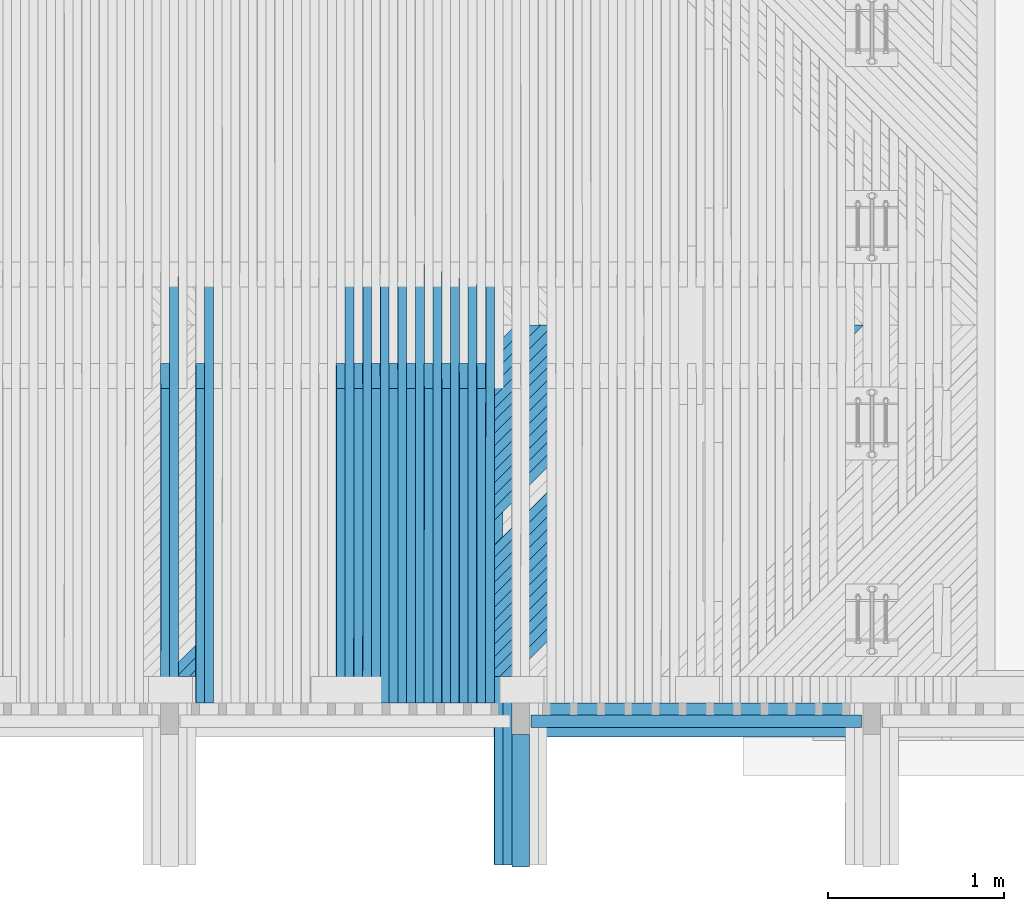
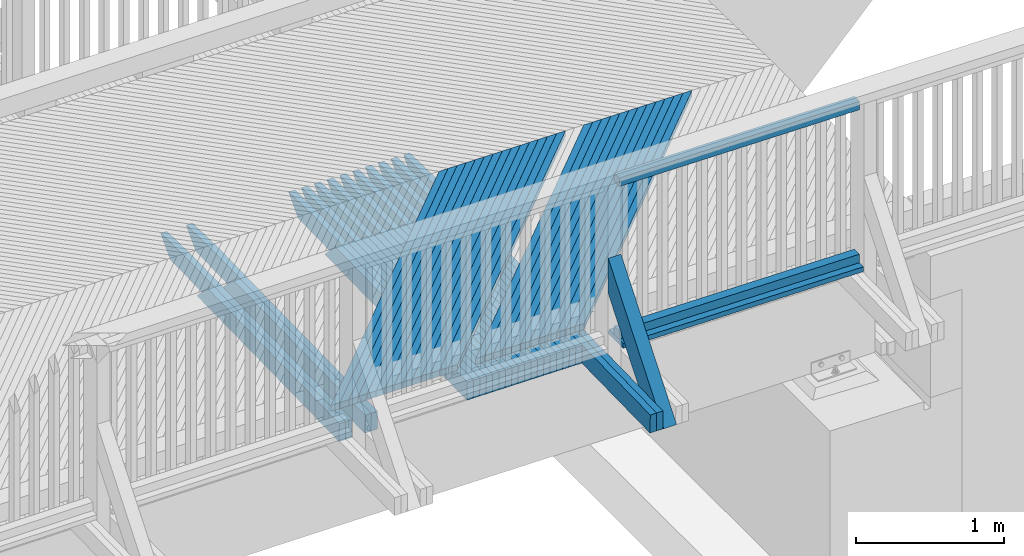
# One storey, part 40 of 53: 53 beams, 1 member.
"""IFC2X3 building model written with IfcOpenShell, lengths in millimetres."""

from ifc_helpers import new_model, si_unit, frame, origin_with_axes, place, context, subcontext, project, spatial, faceted_brep, material, type_object, element, save


model = new_model("IFC2X3")

# Units and contexts
model_context = context("Model", 3, precision=1e-05, world=origin_with_axes())
body_context = subcontext(model_context, "Body", "Model", "MODEL_VIEW")
ifc_project = project(units=[si_unit("LENGTHUNIT", "METRE", prefix="MILLI"), si_unit("AREAUNIT", "SQUARE_METRE"), si_unit("VOLUMEUNIT", "CUBIC_METRE"), si_unit("MASSUNIT", "GRAM", prefix="KILO"), si_unit("TIMEUNIT", "SECOND"), si_unit("PLANEANGLEUNIT", "RADIAN"), si_unit("SOLIDANGLEUNIT", "STERADIAN"), si_unit("THERMODYNAMICTEMPERATUREUNIT", "DEGREE_CELSIUS"), si_unit("LUMINOUSINTENSITYUNIT", "LUMEN")], contexts=[model_context])

# Site, building, storey
site_placement = place(None, origin_with_axes())
site = spatial("IfcSite", under=ifc_project, at=site_placement, Name="Undefined", CompositionType="ELEMENT")
building_placement = place(site_placement, origin_with_axes())
building = spatial("IfcBuilding", under=site, at=building_placement, Name="Undefined", CompositionType="ELEMENT")
storey_placement = place(building_placement, origin_with_axes())
storey = spatial("IfcBuildingStorey", under=building, at=storey_placement, Name="Undefined", CompositionType="ELEMENT", Elevation=0.0)

# Member
ifc_material = material(Name="TIMBER/Timber_Undefined")
member_type = type_object("IfcMemberType", Name="180*100", PredefinedType="NOTDEFINED")
member_placement = place(storey_placement, frame((14000.0064146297, 39351.2316008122, 2924.11964154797), z_axis=(0.0, -0.783926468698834, 0.620853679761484), x_axis=(-4.01699999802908e-06, 0.620853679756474, 0.783926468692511)))
element("IfcMember", 1, at=member_placement, inside=storey, type_object=member_type, material=ifc_material, Name="KAIDEPYLVÄS", ObjectType="180*100", context=body_context, shape_type="Brep", body=[
    faceted_brep([(0.0, 50.0, -89.9999999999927), (0.0, 50.0, 90.0), (1214.99480886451, 50.0000000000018, 90.0000000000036), (987.716194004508, 50.0, -89.9999999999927), (0.0, -49.9999999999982, 90.0000000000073), (1214.99440716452, -49.9999999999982, 90.0000000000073), (-3.63797880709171e-12, -49.9999999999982, -90.0), (987.715792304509, -49.9999999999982, -89.9999999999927)], [[[0, 1, 2, 3]], [[1, 4, 5, 2]], [[4, 6, 7, 5]], [[6, 0, 3, 7]], [[5, 7, 3, 2]], [[6, 4, 1, 0]]]),
])

# Beams
beam_type_1 = type_object("IfcBeamType", Name="70*70", PredefinedType="NOTDEFINED")
for number, where, z_axis, x_axis, name in (
    (2, (14059.5719402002, 40110.0099881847, 3233.34227096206), (0.0, -1.0, 0.0), (0.999925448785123, 0.0, -0.0122105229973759), "BEAM"),
    (3, (14059.5719402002, 40110.0099881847, 4498.34227096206), (0.0, -1.0, 0.0), (0.999925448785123, 0.0, -0.0122105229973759), "BEAM"),
):
    element("IfcBeam", number, at=place(storey_placement, frame(where, z_axis=z_axis, x_axis=x_axis)), inside=storey, type_object=beam_type_1, material=ifc_material, Name=name, ObjectType="70*70", context=body_context, shape_type="Brep", body=[
        faceted_brep([(-3.63797880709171e-12, 35.0000000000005, -35.0), (-3.63797880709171e-12, 35.0000000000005, 35.0), (1880.14165787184, 35.0, 35.0), (1880.14165787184, 35.0, -35.0), (-3.63797880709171e-12, -34.9999999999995, 35.0), (1880.14165787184, -34.9999999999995, 35.0), (-3.63797880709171e-12, -34.9999999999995, -35.0), (1880.14165787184, -34.9999999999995, -35.0)], [[[0, 1, 2, 3]], [[1, 4, 5, 2]], [[4, 6, 7, 5]], [[6, 0, 3, 7]], [[5, 7, 3, 2]], [[6, 4, 1, 0]]]),
    ])
beam_type_2 = type_object("IfcBeamType", Name="195*40", PredefinedType="NOTDEFINED")
beam_1_placement = place(storey_placement, frame((14058.0442658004, 40117.5099881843, 3178.3660739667), z_axis=(0.0, -1.0, 0.0), x_axis=(0.999925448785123, 0.0, -0.0122105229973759)))
element("IfcBeam", 4, at=beam_1_placement, inside=storey, type_object=beam_type_2, material=ifc_material, Name="BEAM", ObjectType="195*40", context=body_context, shape_type="Brep", body=[
    faceted_brep([(0.0, 20.0, -97.5), (0.0, 20.0, 97.5), (1880.22135781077, 19.9999999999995, 97.5), (1880.22135781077, 19.9999999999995, -97.5), (3.63797880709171e-12, -20.0, 97.5), (1880.22135781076, -20.0000000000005, 97.5), (3.63797880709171e-12, -20.0, -97.5), (1880.22135781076, -20.0000000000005, -97.5)], [[[0, 1, 2, 3]], [[1, 4, 5, 2]], [[4, 6, 7, 5]], [[6, 0, 3, 7]], [[5, 7, 3, 2]], [[6, 4, 1, 0]]]),
])
beam_type_3 = type_object("IfcBeamType", Name="50*50", PredefinedType="NOTDEFINED")
for number, where, z_axis, x_axis, name in (
    (5, (15915.2442465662, 42364.5001003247, 3184.09352561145), (0.706884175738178, -0.706981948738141, -0.0221649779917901), (-0.707238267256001, -0.706948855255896, -0.00611141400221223), "BEAM"),
    (6, (15844.5260699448, 42364.5001003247, 3185.01910211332), (0.706886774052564, -0.706981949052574, -0.0220819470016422), (-0.707237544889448, -0.706948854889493, -0.00619448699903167), "BEAM"),
    (7, (15773.8077850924, 42364.5001003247, 3185.93637200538), (0.706889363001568, -0.70698194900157, -0.021998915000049), (-0.707236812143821, -0.706948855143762, -0.00627756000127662), "BEAM"),
    (8, (15703.0893929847, 42364.5001003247, 3186.8453352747), (0.70689194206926, -0.706981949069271, -0.0219158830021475), (-0.707236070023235, -0.706948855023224, -0.006360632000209), "BEAM"),
    (9, (15632.3708945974, 42364.5001003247, 3187.74599190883), (0.706894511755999, -0.706981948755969, -0.021832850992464), (-0.707235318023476, -0.706948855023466, -0.00644370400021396), "BEAM"),
    (10, (15561.6522909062, 42364.5001003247, 3188.6383418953), (0.706897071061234, -0.706981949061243, -0.0217498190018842), (-0.707234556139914, -0.706948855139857, -0.00652677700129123), "BEAM"),
    (11, (15490.9335828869, 42364.5001003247, 3189.52238522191), (0.706899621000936, -0.706981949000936, -0.0216667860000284), (-0.707233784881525, -0.706948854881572, -0.00660984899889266), "BEAM"),
    (12, (15420.2147715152, 42364.5001003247, 3190.39812187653), (0.706902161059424, -0.706981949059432, -0.0215837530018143), (-0.707233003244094, -0.706948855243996, -0.00669292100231), "BEAM"),
    (13, (15349.4958577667, 42364.5001003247, 3191.26555184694), (0.706904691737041, -0.706981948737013, -0.021500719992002), (-0.707232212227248, -0.706948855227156, -0.00677599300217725), "BEAM"),
    (14, (15278.7768426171, 42364.5001003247, 3192.12467512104), (0.706907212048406, -0.706981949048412, -0.0214176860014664), (-0.707231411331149, -0.706948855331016, -0.00685906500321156), "BEAM"),
    (15, (15208.0577270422, 42364.5001003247, 3192.97549168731), (0.706909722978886, -0.706981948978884, -0.0213346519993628), (-0.707230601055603, -0.70694885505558, -0.00694213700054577), "BEAM"),
    (16, (15137.3385120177, 42364.5001003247, 3193.81800153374), (0.706912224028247, -0.706981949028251, -0.021251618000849), (-0.707229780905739, -0.706948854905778, -0.0070252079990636), "BEAM"),
    (17, (14925.1802800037, 42364.5001003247, 3196.29569063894), (0.706919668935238, -0.706981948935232, -0.0210025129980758), (-0.70722726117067, -0.706948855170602, -0.00727442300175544), "BEAM"),
    (18, (14854.4606769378, 42364.5001003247, 3197.1049734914), (0.706922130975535, -0.706981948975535, -0.0209194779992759), (-0.707226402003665, -0.706948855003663, -0.00735749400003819), "BEAM"),
    (19, (14783.740979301, 42364.5001003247, 3197.90594956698), (0.706924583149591, -0.706981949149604, -0.020836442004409), (-0.70722553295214, -0.706948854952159, -0.00744056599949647), "BEAM"),
    (20, (14713.0211880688, 42364.5001003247, 3198.69861885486), (0.706927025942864, -0.706981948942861, -0.0207534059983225), (-0.707224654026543, -0.706948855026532, -0.00752363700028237), "BEAM"),
    (21, (14642.301304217, 42364.5001003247, 3199.4829813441), (0.706929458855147, -0.706981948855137, -0.0206703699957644), (-0.70722376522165, -0.706948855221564, -0.00760670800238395), "BEAM"),
    (22, (14571.5813287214, 42364.5001003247, 3200.25903702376), (0.706931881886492, -0.706981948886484, -0.0205873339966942), (-0.707222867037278, -0.706948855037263, -0.00768977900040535), "BEAM"),
    (23, (14500.8612625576, 42364.5001003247, 3201.02678588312), (0.706934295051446, -0.706981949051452, -0.0205042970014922), (-0.707221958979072, -0.706948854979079, -0.00777284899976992), "BEAM"),
    (24, (14430.1411067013, 42364.5001003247, 3201.78622791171), (0.706936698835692, -0.706981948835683, -0.0204212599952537), (-0.707221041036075, -0.706948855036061, -0.00785592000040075), "BEAM"),
    (25, (14359.4208621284, 42364.5001003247, 3202.53736309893), (0.706939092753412, -0.706981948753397, -0.0203382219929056), (-0.707220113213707, -0.706948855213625, -0.00793899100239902), "BEAM"),
    (26, (14288.7005298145, 42364.5001003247, 3203.28019143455), (0.706941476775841, -0.706981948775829, -0.0202551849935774), (-0.707219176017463, -0.706948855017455, -0.00802206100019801), "BEAM"),
    (27, (14217.9801107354, 42364.5001003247, 3204.01471290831), (0.706943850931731, -0.706981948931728, -0.0201721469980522), (-0.707218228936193, -0.706948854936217, -0.00810513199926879), "BEAM"),
    (28, (14147.2596058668, 42364.5001003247, 3204.74092750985), (0.706946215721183, -0.706981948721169, -0.020089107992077), (-0.707217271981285, -0.706948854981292, -0.00818820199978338), "BEAM"),
    (29, (14076.5390161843, 42364.5001003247, 3205.45883522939), (0.706948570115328, -0.706981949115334, -0.0200060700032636), (-0.707216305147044, -0.706948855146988, -0.00827127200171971), "BEAM"),
    (30, (14005.8183426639, 42364.5001003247, 3206.16843605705), (0.706950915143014, -0.706981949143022, -0.0199230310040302), (-0.707215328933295, -0.70694885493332, -0.00835434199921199), "BEAM"),
):
    element("IfcBeam", number, at=place(storey_placement, frame(where, z_axis=z_axis, x_axis=x_axis)), inside=storey, type_object=beam_type_3, material=ifc_material, Name=name, ObjectType="50*50", context=body_context, shape_type="Brep", body=[
        faceted_brep([(24.8942457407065, 25.0, -25.0), (-25.0086637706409, 24.9999999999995, 24.9999999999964), (2804.34067830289, 25.0, 25.0000000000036), (2854.34301907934, 24.9999999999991, -25.0000000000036), (-26.4222658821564, -25.0000000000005, 25.0000000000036), (2802.92643296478, -25.0, 25.0), (23.4806436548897, -25.0, -25.0), (2852.92877373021, -25.0000000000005, -25.0000000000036)], [[[0, 1, 2, 3]], [[1, 4, 5, 2]], [[4, 6, 7, 5]], [[6, 0, 3, 7]], [[5, 7, 3, 2]], [[6, 4, 1, 0]]]),
    ])
beam_type_4 = type_object("IfcBeamType", Name="150*50", PredefinedType="NOTDEFINED")
beam_2_placement = place(storey_placement, frame((13874.5412183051, 39292.7893167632, 3046.00136950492), z_axis=(0.00967820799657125, -0.0199960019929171, 0.999753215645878), x_axis=(0.000194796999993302, 0.999800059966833, 0.0199950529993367)))
element("IfcBeam", 31, at=beam_2_placement, inside=storey, type_object=beam_type_4, material=ifc_material, Name="BEAM", ObjectType="150*50", context=body_context, shape_type="Brep", body=[
    faceted_brep([(1.28420651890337e-08, -24.9999999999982, -74.9999999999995), (-1.28347892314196e-08, -24.9999999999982, 75.0), (-1.28347892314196e-08, 25.0, 75.0), (1.28420651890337e-08, 25.0000000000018, -75.0), (2713.86938248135, -25.0000000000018, 74.9999999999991), (2713.86933800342, 25.0000000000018, 75.0), (2852.32643692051, 24.9999999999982, -75.0000000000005), (2852.32648139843, -25.0000000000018, -75.0000000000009)], [[[0, 1, 2, 3]], [[2, 1, 4, 5]], [[3, 2, 5, 6]], [[0, 3, 6, 7]], [[1, 0, 7, 4]], [[7, 6, 5, 4]]]),
])
beam_3_placement = place(storey_placement, frame((13924.5610735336, 39292.7893321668, 3045.50883754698), z_axis=(0.009844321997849, -0.0199960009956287, 0.999751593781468), x_axis=(0.000196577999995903, 0.999800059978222, 0.0199950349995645)))
element("IfcBeam", 32, at=beam_3_placement, inside=storey, type_object=beam_type_4, material=ifc_material, Name="BEAM", ObjectType="150*50", context=body_context, shape_type="Brep", body=[
    faceted_brep([(1.28420651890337e-08, -24.9999999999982, -74.9999999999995), (-1.28347892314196e-08, -24.9999999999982, 75.0), (-1.28347892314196e-08, 25.0, 75.0), (1.28420651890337e-08, 25.0000000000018, -75.0), (3298.90492234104, 25.0, -75.0), (3298.90497884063, -24.9999999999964, -75.0), (3434.49251531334, -24.9999999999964, 60.587536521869), (3074.32503029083, -25.0, 75.0000000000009), (3074.32503673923, 25.0000000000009, 75.0), (3434.49245887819, 25.0, 60.5875365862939)], [[[0, 1, 2, 3]], [[0, 3, 4, 5]], [[1, 0, 5, 6, 7]], [[2, 1, 7, 8]], [[4, 3, 2, 8, 9]], [[5, 4, 9, 6]], [[6, 9, 8, 7]]]),
])
beam_4_placement = place(storey_placement, frame((13775.0443914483, 40216.5046076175, 3065.44163255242), z_axis=(0.00951331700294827, -0.0199960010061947, 0.999754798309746), x_axis=(0.000190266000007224, 0.999800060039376, 0.0199950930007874)))
element("IfcBeam", 33, at=beam_4_placement, inside=storey, type_object=beam_type_4, material=ifc_material, Name="BEAM", ObjectType="150*50", context=body_context, shape_type="Brep", body=[
    faceted_brep([(1.28420651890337e-08, -24.9999999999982, -74.9999999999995), (-1.28347892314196e-08, -24.9999999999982, 75.0), (-1.28347892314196e-08, 25.0, 75.0), (1.28420651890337e-08, 25.0000000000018, -75.0), (1789.96936433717, -25.0000000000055, 74.9999999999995), (1789.96936408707, 24.9999999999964, 75.0000000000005), (1928.42646328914, 24.9999999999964, -74.9999999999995), (1928.42646353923, -25.0000000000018, -75.0)], [[[0, 1, 2, 3]], [[2, 1, 4, 5]], [[3, 2, 5, 6]], [[0, 3, 6, 7]], [[1, 0, 7, 4]], [[6, 5, 4, 7]]]),
])
beam_5_placement = place(storey_placement, frame((13825.062080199, 40216.5046076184, 3064.95737203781), z_axis=(0.00967942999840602, -0.0199960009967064, 0.999753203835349), x_axis=(0.000193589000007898, 0.999800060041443, 0.0199950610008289)))
element("IfcBeam", 34, at=beam_5_placement, inside=storey, type_object=beam_type_4, material=ifc_material, Name="BEAM", ObjectType="150*50", context=body_context, shape_type="Brep", body=[
    faceted_brep([(1.28420651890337e-08, -24.9999999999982, -74.9999999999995), (-1.28347892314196e-08, -24.9999999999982, 75.0), (-1.28347892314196e-08, 25.0, 75.0), (1.28420651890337e-08, 25.0000000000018, -75.0), (2375.00494422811, 25.0000000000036, -75.0), (2375.0049444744, -24.9999999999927, -74.9999999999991), (2510.5924871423, -24.9999999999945, 60.5875430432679), (2150.42514405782, -24.9999999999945, 75.0), (2150.42515052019, 25.0000000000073, 75.0), (2510.59248715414, 25.0000000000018, 60.5875433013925)], [[[0, 1, 2, 3]], [[0, 3, 4, 5]], [[1, 0, 5, 6, 7]], [[2, 1, 7, 8]], [[4, 3, 2, 8, 9]], [[5, 4, 9, 6]], [[6, 9, 8, 7]]]),
])
beam_6_placement = place(storey_placement, frame((13675.0288822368, 40216.5046076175, 3066.39287799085), z_axis=(0.00934720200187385, -0.0199960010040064, 0.999756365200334), x_axis=(0.000186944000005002, 0.999800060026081, 0.0199951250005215)))
element("IfcBeam", 35, at=beam_6_placement, inside=storey, type_object=beam_type_4, material=ifc_material, Name="BEAM", ObjectType="150*50", context=body_context, shape_type="Brep", body=[
    faceted_brep([(1.28420651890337e-08, -24.9999999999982, -74.9999999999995), (-1.28347892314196e-08, -24.9999999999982, 75.0), (-1.28347892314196e-08, 25.0, 75.0), (1.28420651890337e-08, 25.0000000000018, -75.0), (1789.96936433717, -25.0000000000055, 74.9999999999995), (1789.96936408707, 24.9999999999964, 75.0000000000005), (1928.42646328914, 24.9999999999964, -74.9999999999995), (1928.42646353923, -25.0000000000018, -75.0)], [[[0, 1, 2, 3]], [[2, 1, 4, 5]], [[3, 2, 5, 6]], [[0, 3, 6, 7]], [[1, 0, 7, 4]], [[6, 5, 4, 7]]]),
])
beam_7_placement = place(storey_placement, frame((13725.0466507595, 40216.5046076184, 3065.91692818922), z_axis=(0.00951331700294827, -0.0199960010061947, 0.999754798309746), x_axis=(0.000190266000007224, 0.999800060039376, 0.0199950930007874)))
element("IfcBeam", 36, at=beam_7_placement, inside=storey, type_object=beam_type_4, material=ifc_material, Name="BEAM", ObjectType="150*50", context=body_context, shape_type="Brep", body=[
    faceted_brep([(1.28420651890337e-08, -24.9999999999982, -74.9999999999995), (-1.28347892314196e-08, -24.9999999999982, 75.0), (-1.28347892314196e-08, 25.0, 75.0), (1.28420651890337e-08, 25.0000000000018, -75.0), (2375.00494422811, 25.0000000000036, -75.0), (2375.0049444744, -24.9999999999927, -74.9999999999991), (2510.5924871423, -24.9999999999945, 60.5875430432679), (2150.42514405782, -24.9999999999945, 75.0), (2150.42515052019, 25.0000000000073, 75.0), (2510.59248715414, 25.0000000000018, 60.5875433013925)], [[[0, 1, 2, 3]], [[0, 3, 4, 5]], [[1, 0, 5, 6, 7]], [[2, 1, 7, 8]], [[4, 3, 2, 8, 9]], [[5, 4, 9, 6]], [[6, 9, 8, 7]]]),
])
beam_8_placement = place(storey_placement, frame((13575.0132163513, 40216.5046076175, 3067.32750530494), z_axis=(0.00918108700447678, -0.0199960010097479, 0.999757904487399), x_axis=(0.00018362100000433, 0.999800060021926, 0.0199951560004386)))
element("IfcBeam", 37, at=beam_8_placement, inside=storey, type_object=beam_type_4, material=ifc_material, Name="BEAM", ObjectType="150*50", context=body_context, shape_type="Brep", body=[
    faceted_brep([(1.28420651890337e-08, -24.9999999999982, -74.9999999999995), (-1.28347892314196e-08, -24.9999999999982, 75.0), (-1.28347892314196e-08, 25.0, 75.0), (1.28420651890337e-08, 25.0000000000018, -75.0), (1789.96936433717, -25.0000000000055, 74.9999999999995), (1789.96936408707, 24.9999999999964, 75.0000000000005), (1928.42646328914, 24.9999999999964, -74.9999999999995), (1928.42646353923, -25.0000000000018, -75.0)], [[[0, 1, 2, 3]], [[2, 1, 4, 5]], [[3, 2, 5, 6]], [[0, 3, 6, 7]], [[1, 0, 7, 4]], [[6, 5, 4, 7]]]),
])
beam_9_placement = place(storey_placement, frame((13625.0310632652, 40216.5046076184, 3066.85986622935), z_axis=(0.00934720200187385, -0.0199960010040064, 0.999756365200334), x_axis=(0.000186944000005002, 0.999800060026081, 0.0199951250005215)))
element("IfcBeam", 38, at=beam_9_placement, inside=storey, type_object=beam_type_4, material=ifc_material, Name="BEAM", ObjectType="150*50", context=body_context, shape_type="Brep", body=[
    faceted_brep([(1.28420651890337e-08, -24.9999999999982, -74.9999999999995), (-1.28347892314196e-08, -24.9999999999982, 75.0), (-1.28347892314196e-08, 25.0, 75.0), (1.28420651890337e-08, 25.0000000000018, -75.0), (2375.00494422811, 25.0000000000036, -75.0), (2375.0049444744, -24.9999999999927, -74.9999999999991), (2510.5924871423, -24.9999999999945, 60.5875430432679), (2150.42514405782, -24.9999999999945, 75.0), (2150.42515052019, 25.0000000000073, 75.0), (2510.59248715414, 25.0000000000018, 60.5875433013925)], [[[0, 1, 2, 3]], [[0, 3, 4, 5]], [[1, 0, 5, 6, 7]], [[2, 1, 7, 8]], [[4, 3, 2, 8, 9]], [[5, 4, 9, 6]], [[6, 9, 8, 7]]]),
])
beam_10_placement = place(storey_placement, frame((13474.9973965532, 40216.5046076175, 3068.24551446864), z_axis=(0.00901497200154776, -0.0199960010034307, 0.999759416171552), x_axis=(0.000180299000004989, 0.999800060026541, 0.0199951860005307)))
element("IfcBeam", 39, at=beam_10_placement, inside=storey, type_object=beam_type_4, material=ifc_material, Name="BEAM", ObjectType="150*50", context=body_context, shape_type="Brep", body=[
    faceted_brep([(1.28420651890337e-08, -24.9999999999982, -74.9999999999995), (-1.28347892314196e-08, -24.9999999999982, 75.0), (-1.28347892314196e-08, 25.0, 75.0), (1.28420651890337e-08, 25.0000000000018, -75.0), (1789.96936433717, -25.0000000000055, 74.9999999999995), (1789.96936408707, 24.9999999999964, 75.0000000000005), (1928.42646328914, 24.9999999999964, -74.9999999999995), (1928.42646353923, -25.0000000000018, -75.0)], [[[0, 1, 2, 3]], [[2, 1, 4, 5]], [[3, 2, 5, 6]], [[0, 3, 6, 7]], [[1, 0, 7, 4]], [[6, 5, 4, 7]]]),
])
beam_11_placement = place(storey_placement, frame((13525.0153204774, 40216.5046076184, 3067.78618613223), z_axis=(0.00918108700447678, -0.0199960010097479, 0.999757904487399), x_axis=(0.00018362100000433, 0.999800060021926, 0.0199951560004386)))
element("IfcBeam", 40, at=beam_11_placement, inside=storey, type_object=beam_type_4, material=ifc_material, Name="BEAM", ObjectType="150*50", context=body_context, shape_type="Brep", body=[
    faceted_brep([(1.28420651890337e-08, -24.9999999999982, -74.9999999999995), (-1.28347892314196e-08, -24.9999999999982, 75.0), (-1.28347892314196e-08, 25.0, 75.0), (1.28420651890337e-08, 25.0000000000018, -75.0), (2375.00494422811, 25.0000000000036, -75.0), (2375.0049444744, -24.9999999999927, -74.9999999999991), (2510.5924871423, -24.9999999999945, 60.5875430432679), (2150.42514405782, -24.9999999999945, 75.0), (2150.42515052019, 25.0000000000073, 75.0), (2510.59248715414, 25.0000000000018, 60.5875433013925)], [[[0, 1, 2, 3]], [[0, 3, 4, 5]], [[1, 0, 5, 6, 7]], [[2, 1, 7, 8]], [[4, 3, 2, 8, 9]], [[5, 4, 9, 6]], [[6, 9, 8, 7]]]),
])
beam_12_placement = place(storey_placement, frame((13374.9814256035, 40216.5046076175, 3069.1469054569), z_axis=(0.00884885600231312, -0.0199960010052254, 0.999760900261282), x_axis=(0.000176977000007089, 0.999800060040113, 0.0199952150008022)))
element("IfcBeam", 41, at=beam_12_placement, inside=storey, type_object=beam_type_4, material=ifc_material, Name="BEAM", ObjectType="150*50", context=body_context, shape_type="Brep", body=[
    faceted_brep([(1.28420651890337e-08, -24.9999999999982, -74.9999999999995), (-1.28347892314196e-08, -24.9999999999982, 75.0), (-1.28347892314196e-08, 25.0, 75.0), (1.28420651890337e-08, 25.0000000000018, -75.0), (1789.96936433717, -25.0000000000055, 74.9999999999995), (1789.96936408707, 24.9999999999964, 75.0000000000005), (1928.42646328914, 24.9999999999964, -74.9999999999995), (1928.42646353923, -25.0000000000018, -75.0)], [[[0, 1, 2, 3]], [[2, 1, 4, 5]], [[3, 2, 5, 6]], [[0, 3, 6, 7]], [[1, 0, 7, 4]], [[6, 5, 4, 7]]]),
])
beam_13_placement = place(storey_placement, frame((13424.9994251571, 40216.5046076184, 3068.69588787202), z_axis=(0.00901497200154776, -0.0199960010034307, 0.999759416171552), x_axis=(0.000180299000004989, 0.999800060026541, 0.0199951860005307)))
element("IfcBeam", 42, at=beam_13_placement, inside=storey, type_object=beam_type_4, material=ifc_material, Name="BEAM", ObjectType="150*50", context=body_context, shape_type="Brep", body=[
    faceted_brep([(1.28420651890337e-08, -24.9999999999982, -74.9999999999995), (-1.28347892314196e-08, -24.9999999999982, 75.0), (-1.28347892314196e-08, 25.0, 75.0), (1.28420651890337e-08, 25.0000000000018, -75.0), (2375.00494422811, 25.0000000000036, -75.0), (2375.0049444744, -24.9999999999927, -74.9999999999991), (2510.5924871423, -24.9999999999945, 60.5875430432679), (2150.42514405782, -24.9999999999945, 75.0), (2150.42515052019, 25.0000000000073, 75.0), (2510.59248715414, 25.0000000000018, 60.5875433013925)], [[[0, 1, 2, 3]], [[0, 3, 4, 5]], [[1, 0, 5, 6, 7]], [[2, 1, 7, 8]], [[4, 3, 2, 8, 9]], [[5, 4, 9, 6]], [[6, 9, 8, 7]]]),
])
beam_14_placement = place(storey_placement, frame((13274.9653062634, 40216.5046076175, 3070.03167824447), z_axis=(0.00868274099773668, -0.019996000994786, 0.999762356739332), x_axis=(0.000173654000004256, 0.999800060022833, 0.0199952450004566)))
element("IfcBeam", 43, at=beam_14_placement, inside=storey, type_object=beam_type_4, material=ifc_material, Name="BEAM", ObjectType="150*50", context=body_context, shape_type="Brep", body=[
    faceted_brep([(1.28420651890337e-08, -24.9999999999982, -74.9999999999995), (-1.28347892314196e-08, -24.9999999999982, 75.0), (-1.28347892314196e-08, 25.0, 75.0), (1.28420651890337e-08, 25.0000000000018, -75.0), (1789.96936433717, -25.0000000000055, 74.9999999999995), (1789.96936408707, 24.9999999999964, 75.0000000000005), (1928.42646328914, 24.9999999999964, -74.9999999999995), (1928.42646353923, -25.0000000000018, -75.0)], [[[0, 1, 2, 3]], [[2, 1, 4, 5]], [[3, 2, 5, 6]], [[0, 3, 6, 7]], [[1, 0, 7, 4]], [[6, 5, 4, 7]]]),
])
beam_15_placement = place(storey_placement, frame((13324.9833800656, 40216.5046076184, 3069.5889714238), z_axis=(0.00884885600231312, -0.0199960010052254, 0.999760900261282), x_axis=(0.000176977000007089, 0.999800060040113, 0.0199952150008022)))
element("IfcBeam", 44, at=beam_15_placement, inside=storey, type_object=beam_type_4, material=ifc_material, Name="BEAM", ObjectType="150*50", context=body_context, shape_type="Brep", body=[
    faceted_brep([(1.28420651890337e-08, -24.9999999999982, -74.9999999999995), (-1.28347892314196e-08, -24.9999999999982, 75.0), (-1.28347892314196e-08, 25.0, 75.0), (1.28420651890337e-08, 25.0000000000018, -75.0), (2375.00494422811, 25.0000000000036, -75.0), (2375.0049444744, -24.9999999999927, -74.9999999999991), (2510.5924871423, -24.9999999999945, 60.5875430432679), (2150.42514405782, -24.9999999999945, 75.0), (2150.42515052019, 25.0000000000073, 75.0), (2510.59248715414, 25.0000000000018, 60.5875433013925)], [[[0, 1, 2, 3]], [[0, 3, 4, 5]], [[1, 0, 5, 6, 7]], [[2, 1, 7, 8]], [[4, 3, 2, 8, 9]], [[5, 4, 9, 6]], [[6, 9, 8, 7]]]),
])
beam_16_placement = place(storey_placement, frame((13174.9490412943, 40216.5046076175, 3070.89983280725), z_axis=(0.00851662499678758, -0.0199960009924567, 0.999763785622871), x_axis=(0.000170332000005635, 0.999800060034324, 0.0199952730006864)))
element("IfcBeam", 45, at=beam_16_placement, inside=storey, type_object=beam_type_4, material=ifc_material, Name="BEAM", ObjectType="150*50", context=body_context, shape_type="Brep", body=[
    faceted_brep([(1.28420651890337e-08, -24.9999999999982, -74.9999999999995), (-1.28347892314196e-08, -24.9999999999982, 75.0), (-1.28347892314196e-08, 25.0, 75.0), (1.28420651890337e-08, 25.0000000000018, -75.0), (1789.96936433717, -25.0000000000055, 74.9999999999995), (1789.96936408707, 24.9999999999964, 75.0000000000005), (1928.42646328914, 24.9999999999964, -74.9999999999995), (1928.42646353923, -25.0000000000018, -75.0)], [[[0, 1, 2, 3]], [[2, 1, 4, 5]], [[3, 2, 5, 6]], [[0, 3, 6, 7]], [[1, 0, 7, 4]], [[6, 5, 4, 7]]]),
])
beam_17_placement = place(storey_placement, frame((13224.9671879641, 40216.5046076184, 3070.4654367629), z_axis=(0.00868274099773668, -0.019996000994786, 0.999762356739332), x_axis=(0.000173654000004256, 0.999800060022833, 0.0199952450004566)))
element("IfcBeam", 46, at=beam_17_placement, inside=storey, type_object=beam_type_4, material=ifc_material, Name="BEAM", ObjectType="150*50", context=body_context, shape_type="Brep", body=[
    faceted_brep([(1.28420651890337e-08, -24.9999999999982, -74.9999999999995), (-1.28347892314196e-08, -24.9999999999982, 75.0), (-1.28347892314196e-08, 25.0, 75.0), (1.28420651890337e-08, 25.0000000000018, -75.0), (2375.00494422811, 25.0000000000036, -75.0), (2375.0049444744, -24.9999999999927, -74.9999999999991), (2510.5924871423, -24.9999999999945, 60.5875430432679), (2150.42514405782, -24.9999999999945, 75.0), (2150.42515052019, 25.0000000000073, 75.0), (2510.59248715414, 25.0000000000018, 60.5875433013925)], [[[0, 1, 2, 3]], [[0, 3, 4, 5]], [[1, 0, 5, 6, 7]], [[2, 1, 7, 8]], [[4, 3, 2, 8, 9]], [[5, 4, 9, 6]], [[6, 9, 8, 7]]]),
])
beam_18_placement = place(storey_placement, frame((13074.9326334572, 40216.5046076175, 3071.75136912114), z_axis=(0.00835050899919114, -0.019996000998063, 0.999765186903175), x_axis=(0.000167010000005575, 0.999800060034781, 0.0199953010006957)))
element("IfcBeam", 47, at=beam_18_placement, inside=storey, type_object=beam_type_4, material=ifc_material, Name="BEAM", ObjectType="150*50", context=body_context, shape_type="Brep", body=[
    faceted_brep([(1.28420651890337e-08, -24.9999999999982, -74.9999999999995), (-1.28347892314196e-08, -24.9999999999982, 75.0), (-1.28347892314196e-08, 25.0, 75.0), (1.28420651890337e-08, 25.0000000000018, -75.0), (1789.96936433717, -25.0000000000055, 74.9999999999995), (1789.96936408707, 24.9999999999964, 75.0000000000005), (1928.42646328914, 24.9999999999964, -74.9999999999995), (1928.42646353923, -25.0000000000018, -75.0)], [[[0, 1, 2, 3]], [[2, 1, 4, 5]], [[3, 2, 5, 6]], [[0, 3, 6, 7]], [[1, 0, 7, 4]], [[6, 5, 4, 7]]]),
])
beam_19_placement = place(storey_placement, frame((13124.9508516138, 40216.5046076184, 3071.32528386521), z_axis=(0.00851662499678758, -0.0199960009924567, 0.999763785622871), x_axis=(0.000170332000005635, 0.999800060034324, 0.0199952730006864)))
element("IfcBeam", 48, at=beam_19_placement, inside=storey, type_object=beam_type_4, material=ifc_material, Name="BEAM", ObjectType="150*50", context=body_context, shape_type="Brep", body=[
    faceted_brep([(1.28420651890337e-08, -24.9999999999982, -74.9999999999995), (-1.28347892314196e-08, -24.9999999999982, 75.0), (-1.28347892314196e-08, 25.0, 75.0), (1.28420651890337e-08, 25.0000000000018, -75.0), (2375.00494422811, 25.0000000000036, -75.0), (2375.0049444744, -24.9999999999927, -74.9999999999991), (2510.5924871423, -24.9999999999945, 60.5875430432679), (2150.42514405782, -24.9999999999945, 75.0), (2150.42515052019, 25.0000000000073, 75.0), (2510.59248715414, 25.0000000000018, 60.5875433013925)], [[[0, 1, 2, 3]], [[0, 3, 4, 5]], [[1, 0, 5, 6, 7]], [[2, 1, 7, 8]], [[4, 3, 2, 8, 9]], [[5, 4, 9, 6]], [[6, 9, 8, 7]]]),
])
beam_20_placement = place(storey_placement, frame((12974.9160855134, 40216.5046076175, 3072.5862871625), z_axis=(0.00818439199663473, -0.0199960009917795, 0.999766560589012), x_axis=(0.000163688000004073, 0.999800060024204, 0.019995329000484)))
element("IfcBeam", 49, at=beam_20_placement, inside=storey, type_object=beam_type_4, material=ifc_material, Name="BEAM", ObjectType="150*50", context=body_context, shape_type="Brep", body=[
    faceted_brep([(1.28420651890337e-08, -24.9999999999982, -74.9999999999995), (-1.28347892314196e-08, -24.9999999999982, 75.0), (-1.28347892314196e-08, 25.0, 75.0), (1.28420651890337e-08, 25.0000000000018, -75.0), (1789.96936433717, -25.0000000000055, 74.9999999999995), (1789.96936408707, 24.9999999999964, 75.0000000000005), (1928.42646328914, 24.9999999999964, -74.9999999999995), (1928.42646353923, -25.0000000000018, -75.0)], [[[0, 1, 2, 3]], [[2, 1, 4, 5]], [[3, 2, 5, 6]], [[0, 3, 6, 7]], [[1, 0, 7, 4]], [[6, 5, 4, 7]]]),
])
beam_21_placement = place(storey_placement, frame((13024.9343737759, 40216.5046076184, 3072.16851270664), z_axis=(0.00835050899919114, -0.019996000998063, 0.999765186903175), x_axis=(0.000167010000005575, 0.999800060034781, 0.0199953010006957)))
element("IfcBeam", 50, at=beam_21_placement, inside=storey, type_object=beam_type_4, material=ifc_material, Name="BEAM", ObjectType="150*50", context=body_context, shape_type="Brep", body=[
    faceted_brep([(1.28420651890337e-08, -24.9999999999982, -74.9999999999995), (-1.28347892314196e-08, -24.9999999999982, 75.0), (-1.28347892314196e-08, 25.0, 75.0), (1.28420651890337e-08, 25.0000000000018, -75.0), (2375.00494422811, 25.0000000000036, -75.0), (2375.0049444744, -24.9999999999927, -74.9999999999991), (2510.5924871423, -24.9999999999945, 60.5875430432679), (2150.42514405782, -24.9999999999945, 75.0), (2150.42515052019, 25.0000000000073, 75.0), (2510.59248715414, 25.0000000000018, 60.5875433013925)], [[[0, 1, 2, 3]], [[0, 3, 4, 5]], [[1, 0, 5, 6, 7]], [[2, 1, 7, 8]], [[4, 3, 2, 8, 9]], [[5, 4, 9, 6]], [[6, 9, 8, 7]]]),
])
beam_22_placement = place(storey_placement, frame((12174.7789894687, 40216.5046076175, 3078.66737101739), z_axis=(0.00685545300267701, -0.0199960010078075, 0.999776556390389), x_axis=(0.000137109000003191, 0.99980006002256, 0.0199955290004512)))
element("IfcBeam", 51, at=beam_22_placement, inside=storey, type_object=beam_type_4, material=ifc_material, Name="BEAM", ObjectType="150*50", context=body_context, shape_type="Brep", body=[
    faceted_brep([(1.28420651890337e-08, -24.9999999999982, -74.9999999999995), (-1.28347892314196e-08, -24.9999999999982, 75.0), (-1.28347892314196e-08, 25.0, 75.0), (1.28420651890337e-08, 25.0000000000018, -75.0), (1789.96936433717, -25.0000000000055, 74.9999999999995), (1789.96936408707, 24.9999999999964, 75.0000000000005), (1928.42646328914, 24.9999999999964, -74.9999999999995), (1928.42646353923, -25.0000000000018, -75.0)], [[[0, 1, 2, 3]], [[2, 1, 4, 5]], [[3, 2, 5, 6]], [[0, 3, 6, 7]], [[1, 0, 7, 4]], [[6, 5, 4, 7]]]),
])
beam_23_placement = place(storey_placement, frame((12224.7977888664, 40216.5046076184, 3078.3160833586), z_axis=(0.00702157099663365, -0.0199960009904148, 0.999775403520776), x_axis=(0.000140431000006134, 0.999800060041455, 0.019995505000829)))
element("IfcBeam", 52, at=beam_23_placement, inside=storey, type_object=beam_type_4, material=ifc_material, Name="BEAM", ObjectType="150*50", context=body_context, shape_type="Brep", body=[
    faceted_brep([(1.28420651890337e-08, -24.9999999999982, -74.9999999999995), (-1.28347892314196e-08, -24.9999999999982, 75.0), (-1.28347892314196e-08, 25.0, 75.0), (1.28420651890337e-08, 25.0000000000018, -75.0), (2375.00494422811, 25.0000000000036, -75.0), (2375.0049444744, -24.9999999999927, -74.9999999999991), (2510.5924871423, -24.9999999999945, 60.5875430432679), (2150.42514405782, -24.9999999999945, 75.0), (2150.42515052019, 25.0000000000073, 75.0), (2510.59248715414, 25.0000000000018, 60.5875433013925)], [[[0, 1, 2, 3]], [[0, 3, 4, 5]], [[1, 0, 5, 6, 7]], [[2, 1, 7, 8]], [[4, 3, 2, 8, 9]], [[5, 4, 9, 6]], [[6, 9, 8, 7]]]),
])
beam_24_placement = place(storey_placement, frame((11974.7435076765, 40216.5046076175, 3080.02145775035), z_axis=(0.00652321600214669, -0.0199960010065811, 0.999778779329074), x_axis=(0.000130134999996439, 0.999800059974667, 0.0199955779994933)))
element("IfcBeam", 53, at=beam_24_placement, inside=storey, type_object=beam_type_4, material=ifc_material, Name="BEAM", ObjectType="150*50", context=body_context, shape_type="Brep", body=[
    faceted_brep([(1.28420651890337e-08, -24.9999999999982, -74.9999999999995), (-1.28347892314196e-08, -24.9999999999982, 75.0), (-1.28347892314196e-08, 25.0, 75.0), (1.28420651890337e-08, 25.0000000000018, -75.0), (1789.96936433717, -25.0000000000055, 74.9999999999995), (1789.96936408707, 24.9999999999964, 75.0000000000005), (1928.42646328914, 24.9999999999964, -74.9999999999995), (1928.42646353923, -25.0000000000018, -75.0)], [[[0, 1, 2, 3]], [[2, 1, 4, 5]], [[3, 2, 5, 6]], [[0, 3, 6, 7]], [[1, 0, 7, 4]], [[6, 5, 4, 7]]]),
])
beam_25_placement = place(storey_placement, frame((12024.762421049, 40216.5046076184, 3079.68679189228), z_axis=(0.00668933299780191, -0.0199960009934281, 0.999777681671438), x_axis=(0.000133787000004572, 0.999800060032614, 0.0199955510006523)))
element("IfcBeam", 54, at=beam_25_placement, inside=storey, type_object=beam_type_4, material=ifc_material, Name="BEAM", ObjectType="150*50", context=body_context, shape_type="Brep", body=[
    faceted_brep([(1.28420651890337e-08, -24.9999999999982, -74.9999999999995), (-1.28347892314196e-08, -24.9999999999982, 75.0), (-1.28347892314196e-08, 25.0, 75.0), (1.28420651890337e-08, 25.0000000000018, -75.0), (2375.00494422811, 25.0000000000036, -75.0), (2375.0049444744, -24.9999999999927, -74.9999999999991), (2510.5924871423, -24.9999999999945, 60.5875430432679), (2150.42514405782, -24.9999999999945, 75.0), (2150.42515052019, 25.0000000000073, 75.0), (2510.59248715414, 25.0000000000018, 60.5875433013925)], [[[0, 1, 2, 3]], [[0, 3, 4, 5]], [[1, 0, 5, 6, 7]], [[2, 1, 7, 8]], [[4, 3, 2, 8, 9]], [[5, 4, 9, 6]], [[6, 9, 8, 7]]]),
])

save(model, "model.ifc")
